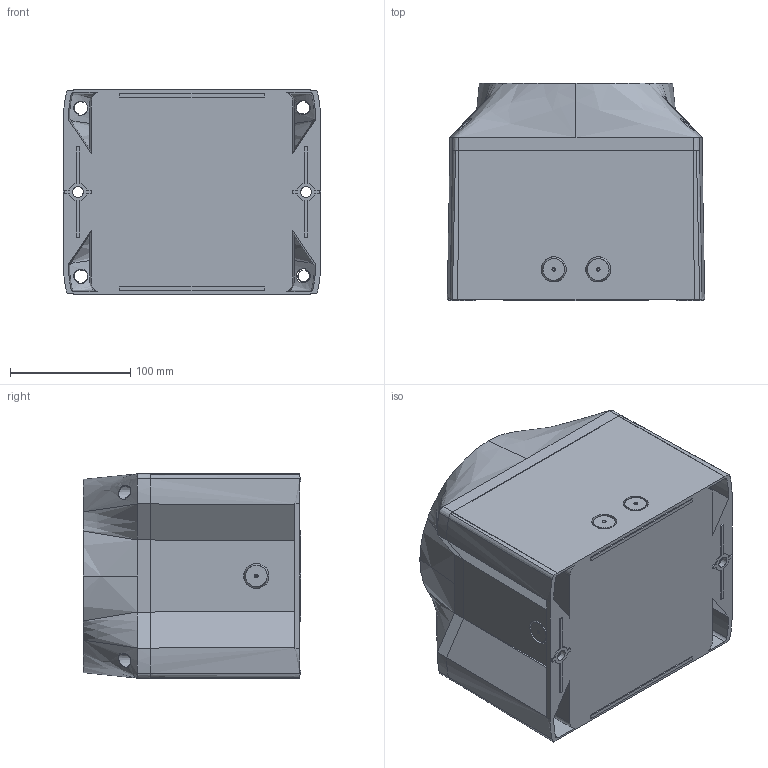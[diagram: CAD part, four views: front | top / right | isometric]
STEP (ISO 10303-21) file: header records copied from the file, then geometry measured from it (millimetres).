
FILE_DESCRIPTION (( 'STEP AP214' ), '1' );
FILE_NAME ('PA20-30306-100.STEP', '2012-01-10T10:28:49', ( ' ' ), ( ' ' ), 'SwSTEP 2.0', 'SolidWorks 2011', '' );
FILE_SCHEMA (( 'AUTOMOTIVE_DESIGN' ));
Length unit declared in the file: millimetre
Products named in the file (1): PA20-30306-100
Bounding box: 214.34 x 181.2 x 170.1 mm (x, y, z)
Surface area: 302303.3 mm2 (no closed solid volume)
Topology: 0 solids, 8 shells, 242 faces, 789 edges, 565 vertices
Faces by surface type: plane 129, cone 68, bspline 36, torus 5, cylinder 4
Entity records: 16003 total; most frequent: CARTESIAN_POINT 7129, ORIENTED_EDGE 1247, DIRECTION 1089, EDGE_CURVE 746, VERTEX_POINT 548, AXIS2_PLACEMENT_3D 367, VECTOR 355, LINE 355
